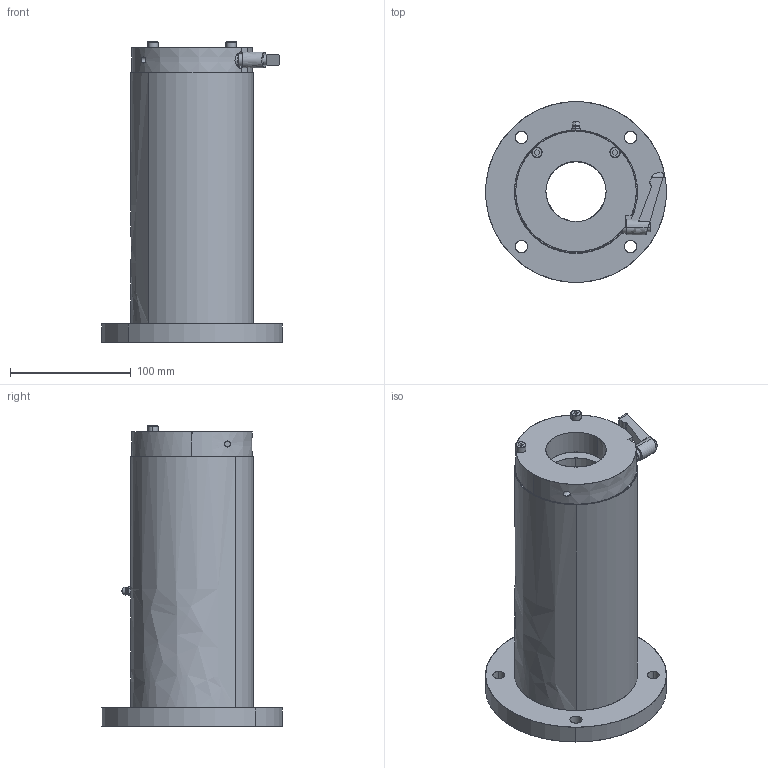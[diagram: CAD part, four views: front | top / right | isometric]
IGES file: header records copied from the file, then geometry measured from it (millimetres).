
Start section: SolidWorks IGES file using analytic representation for surfaces
Global section: file name: C:\Users\yamad\Desktop\IGES\LFW50-OH-C.IGS; native system: SolidWorks 2019; preprocessor: SolidWorks 2019; author: yamad; date: 230626.170932; units: millimetre
Bounding box: 150 x 150 x 249 mm (x, y, z)
Surface area: 192890.6 mm2 (no closed solid volume)
Topology: 0 solids, 0 shells, 219 faces, 6032 edges, 6030 vertices
Faces by surface type: bspline 114, revolution 105
